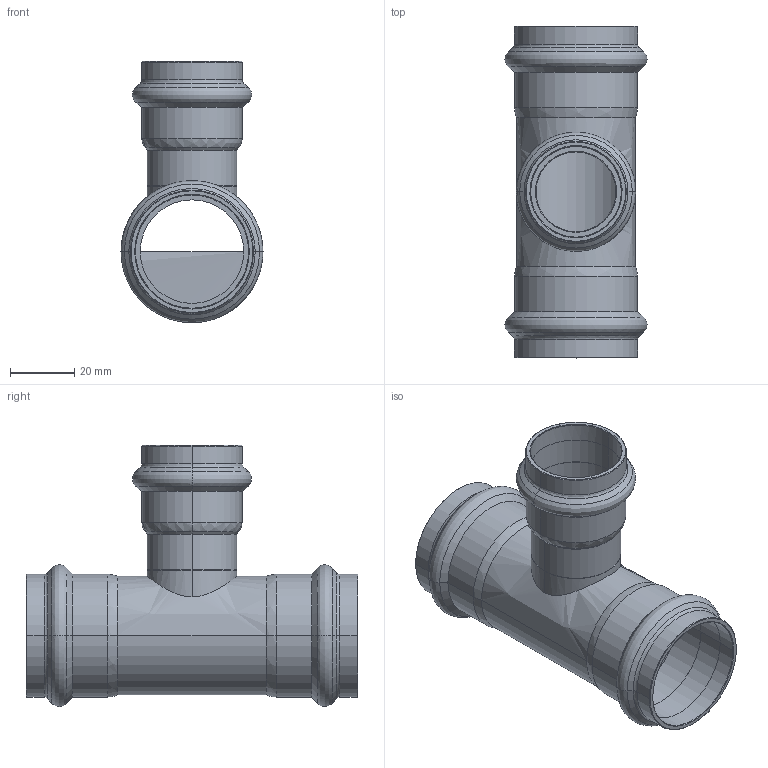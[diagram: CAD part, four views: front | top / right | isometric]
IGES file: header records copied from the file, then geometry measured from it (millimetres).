
Start section: Elysium IGES Interface
Global section: file name: C:\3d modellen sudo\C-Pr VP\SP8130RV\8130RVW352835.igs; native system: CoCreate Modeling 17.00A  17-Jun-2010; preprocessor: CoCreate IGES_3D V2.2; author: Unknown; organization: Unknown; date: 20130131.144248; units: millimetre
Bounding box: 44.3 x 103.51 x 81.48 mm (x, y, z)
Volume: 28761.8 mm3; surface area: 32775.3 mm2
Topology: 1 solids, 1 shells, 128 faces, 276 edges, 150 vertices
Faces by surface type: bspline 128
